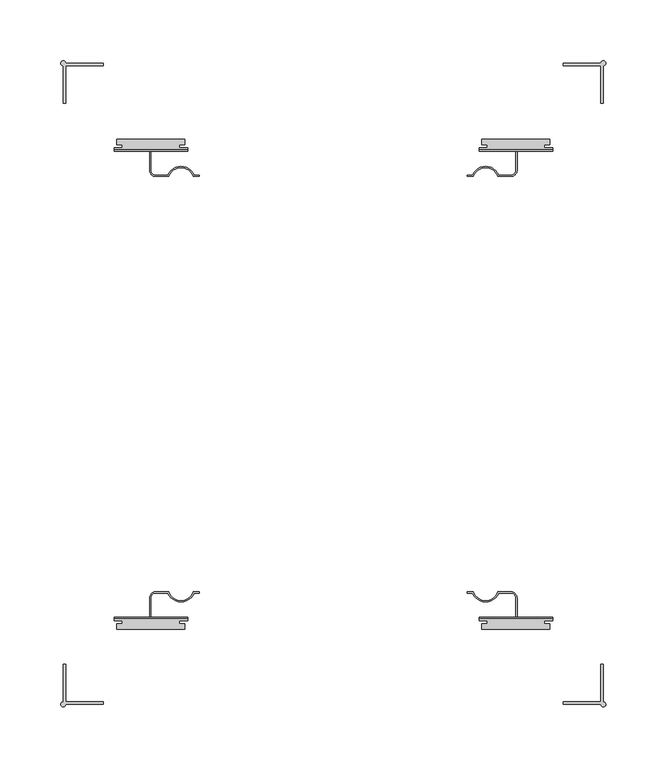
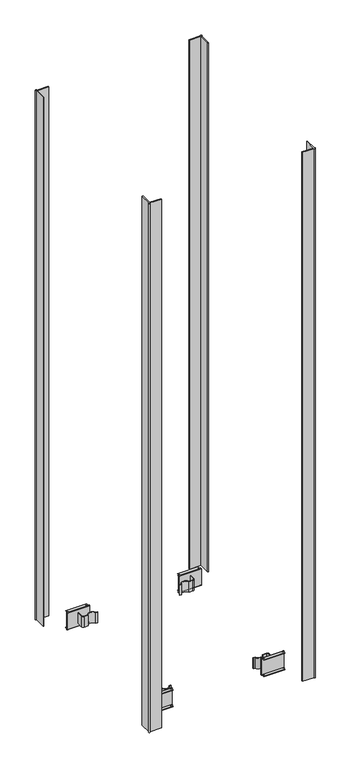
"""IFC4 building model written with IfcOpenShell, lengths in millimetres: column geometry, Облицовка колонн : КНАУФ-Файерборд два слоя."""

from ifc_helpers import new_model, si_unit, point, frame, frame_2d, origin, origin_with_axes, place, context, project, spatial, polyline, circle_curve, trimmed, segment, composite_curve, outline, extrude, source, transform, mapped, element, save
from ifc_brep_helpers import plane_surface, cylinder_surface, advanced_brep


def column_374d2ba1(model_context):
    return source(origin(), model_context, "Body", "SolidModel", [
        extrude(outline(composite_curve([segment(polyline([(189.0, -261.5), (220.0, -261.5), (220.0, -230.5), (221.9874508, -230.5), (221.9874508, -261.5436745)]), True, "CONTINUOUS"), segment(trimmed(circle_curve(frame_2d((221.9874508, -263.5311253)), 1.9874508), [point((221.9874508, -261.5436745))], [point((220.0, -263.5311253))], False, "CARTESIAN"), True, "CONTINUOUS"), segment(polyline([(220.0, -263.5311253), (189.0, -263.5311253), (189.0, -261.5)]), True, "CONTINUOUS")], self_intersect=False)), origin_with_axes(), (0.0, 0.0, 1.0), 1500.0),
        extrude(outline(composite_curve([segment(polyline([(-189.0, -261.5), (-189.0, -263.5311253), (-220.0, -263.5311253)]), True, "CONTINUOUS"), segment(trimmed(circle_curve(frame_2d((-221.9874508, -263.5311253)), 1.9874508), [point((-220.0, -263.5311253))], [point((-221.9874508, -261.5436745))], False, "CARTESIAN"), True, "CONTINUOUS"), segment(polyline([(-221.9874508, -261.5436745), (-221.9874508, -230.5), (-220.0, -230.5), (-220.0, -261.5), (-189.0, -261.5)]), True, "CONTINUOUS")], self_intersect=False)), origin_with_axes(), (0.0, 0.0, 1.0), 1500.0),
        extrude(outline(composite_curve([segment(polyline([(189.0, 261.5), (189.0, 263.5311253), (220.0, 263.5311253)]), True, "CONTINUOUS"), segment(trimmed(circle_curve(frame_2d((221.9874508, 263.5311253)), 1.9874508), [point((220.0, 263.5311253))], [point((221.9874508, 261.5436745))], False, "CARTESIAN"), True, "CONTINUOUS"), segment(polyline([(221.9874508, 261.5436745), (221.9874508, 230.5), (220.0, 230.5), (220.0, 261.5), (189.0, 261.5)]), True, "CONTINUOUS")], self_intersect=False)), origin_with_axes(), (0.0, 0.0, 1.0), 1500.0),
        extrude(outline(composite_curve([segment(polyline([(-189.0, 261.5), (-220.0, 261.5), (-220.0, 230.5), (-221.9874508, 230.5), (-221.9874508, 261.5436745)]), True, "CONTINUOUS"), segment(trimmed(circle_curve(frame_2d((-221.9874508, 263.5311253)), 1.9874508), [point((-221.9874508, 261.5436745))], [point((-220.0, 263.5311253))], False, "CARTESIAN"), True, "CONTINUOUS"), segment(polyline([(-220.0, 263.5311253), (-189.0, 263.5311253), (-189.0, 261.5)]), True, "CONTINUOUS")], self_intersect=False)), origin_with_axes(), (0.0, 0.0, 1.0), 1500.0),
        advanced_brep(
        [(-180.2, 191.5, 46.0), (-180.2, 192.5, 47.0), (-180.2, 194.5, 47.0), (-180.2, 194.5, 46.0), (-180.2, 192.5, 46.0), (-180.2, 192.5, 0.0), (-180.2, 194.5, 0.0), (-180.2, 194.5, -1.0), (-180.2, 192.5, -1.0), (-180.2, 191.5, 0.0), (-119.8, 191.5, 46.0), (-119.8, 191.5, 0.0), (-119.8, 192.5, -1.0), (-119.8, 194.5, -1.0), (-119.8, 194.5, 0.0), (-119.8, 192.5, 0.0), (-119.8, 192.5, 46.0), (-119.8, 194.5, 46.0), (-119.8, 194.5, 47.0), (-119.8, 192.5, 47.0), (-126.6838154, 194.5, 47.0), (-126.6838154, 196.8, 47.0), (-122.2, 196.8, 47.0), (-122.2, 201.5, 47.0), (-177.8, 201.5, 47.0), (-177.8, 196.8, 47.0), (-173.3161846, 196.8, 47.0), (-173.3161846, 194.5, 47.0), (-177.8, 201.5, 46.0), (-122.2, 201.5, 46.0), (-173.3161846, 194.5, 46.0), (-173.3161846, 196.8, 46.0), (-177.8, 196.8, 46.0), (-122.2, 196.8, 46.0), (-126.6838154, 196.8, 46.0), (-126.6838154, 194.5, 46.0), (-126.6838154, 194.5, 0.0), (-126.6838154, 196.8, 0.0), (-122.2, 196.8, 0.0), (-122.2, 201.5, 0.0), (-177.8, 201.5, 0.0), (-177.8, 196.8, 0.0), (-173.3161846, 196.8, 0.0), (-173.3161846, 194.5, 0.0), (-177.8, 201.5, -1.0), (-122.2, 201.5, -1.0), (-173.3161846, 194.5, -1.0), (-173.3161846, 196.8, -1.0), (-177.8, 196.8, -1.0), (-122.2, 196.8, -1.0), (-126.6838154, 196.8, -1.0), (-126.6838154, 194.5, -1.0)],
        [
            (0, 1, circle_curve(frame((-180.2, 192.5, 46.0), z_axis=(-1.0, 0.0, 0.0), x_axis=(0.0, -1.0, 0.0)), 1.0)),
            (1, 2),
            (2, 3),
            (3, 4),
            (4, 5),
            (5, 6),
            (6, 7),
            (7, 8),
            (8, 9, circle_curve(frame((-180.2, 192.5, 0.0), z_axis=(-1.0, 0.0, 0.0), x_axis=(0.0, -1.0, 0.0)), 1.0)),
            (9, 0),
            (10, 11),
            (11, 12, circle_curve(frame((-119.8, 192.5, 0.0), z_axis=(1.0, 0.0, 0.0), x_axis=(0.0, -1.0, 0.0)), 1.0)),
            (12, 13),
            (13, 14),
            (14, 15),
            (15, 16),
            (16, 17),
            (17, 18),
            (18, 19),
            (19, 10, circle_curve(frame((-119.8, 192.5, 46.0), z_axis=(1.0, 0.0, 0.0), x_axis=(0.0, -1.0, 0.0)), 1.0)),
            (0, 10),
            (19, 1),
            (18, 20),
            (20, 21),
            (21, 22),
            (22, 23),
            (23, 24),
            (24, 25),
            (25, 26),
            (26, 27),
            (27, 2),
            (28, 24),
            (23, 29),
            (29, 28),
            (16, 4),
            (3, 30),
            (30, 31),
            (31, 32),
            (32, 28),
            (29, 33),
            (33, 34),
            (34, 35),
            (35, 17),
            (15, 5),
            (14, 36),
            (36, 37),
            (37, 38),
            (38, 39),
            (39, 40),
            (40, 41),
            (41, 42),
            (42, 43),
            (43, 6),
            (44, 40),
            (39, 45),
            (45, 44),
            (12, 8),
            (7, 46),
            (46, 47),
            (47, 48),
            (48, 44),
            (45, 49),
            (49, 50),
            (50, 51),
            (51, 13),
            (11, 9),
            (30, 27),
            (26, 31),
            (46, 43),
            (42, 47),
            (25, 32),
            (41, 48),
            (34, 21),
            (20, 35),
            (50, 37),
            (36, 51),
            (33, 22),
            (49, 38),
        ],
        [
            plane_surface(frame((-180.2, 191.5, 46.0), z_axis=(-1.0, 0.0, 0.0), x_axis=(0.0, 0.0, 1.0))),
            plane_surface(frame((-119.8, 191.5, 46.0), z_axis=(1.0, 0.0, 0.0), x_axis=(0.0, 0.0, -1.0))),
            cylinder_surface(frame((-119.8, 192.5, 46.0), z_axis=(-1.0, 0.0, 0.0), x_axis=(0.0, -1.0, 0.0)), 1.0),
            plane_surface(frame((-180.2, 192.5, 47.0), z_axis=(0.0, 0.0, 1.0), x_axis=(1.0, 0.0, 0.0))),
            plane_surface(frame((-180.2, 201.5, 47.0), z_axis=(0.0, 1.0, 0.0), x_axis=(1.0, 0.0, 0.0))),
            plane_surface(frame((-180.2, 201.5, 46.0), z_axis=(0.0, 0.0, -1.0), x_axis=(1.0, 0.0, 0.0))),
            plane_surface(frame((-180.2, 192.5, 46.0), z_axis=(0.0, 1.0, 0.0), x_axis=(1.0, 0.0, 0.0))),
            plane_surface(frame((-180.2, 192.5, 0.0), z_axis=(0.0, 0.0, 1.0), x_axis=(1.0, 0.0, 0.0))),
            plane_surface(frame((-180.2, 201.5, 0.0), z_axis=(0.0, 1.0, 0.0), x_axis=(1.0, 0.0, 0.0))),
            plane_surface(frame((-180.2, 201.5, -1.0), z_axis=(0.0, 0.0, -1.0), x_axis=(1.0, 0.0, 0.0))),
            cylinder_surface(frame((-119.8, 192.5, 0.0), z_axis=(-1.0, 0.0, 0.0), x_axis=(0.0, -1.0, 0.0)), 1.0),
            plane_surface(frame((-180.2, 191.5, 0.0), z_axis=(0.0, -1.0, 0.0), x_axis=(1.0, 0.0, 0.0))),
            plane_surface(frame((-173.3161846, 194.5, 47.0), z_axis=(-1.0, 0.0, 0.0), x_axis=(0.0, 0.0, -1.0))),
            plane_surface(frame((-173.3161846, 196.8, 47.0), z_axis=(0.0, -1.0, 0.0), x_axis=(0.0, 0.0, -1.0))),
            plane_surface(frame((-177.8, 196.8, 47.0), z_axis=(-1.0, 0.0, 0.0), x_axis=(0.0, 0.0, -1.0))),
            plane_surface(frame((-180.2, 194.5, 47.0), z_axis=(0.0, 1.0, 0.0), x_axis=(0.0, 0.0, -1.0))),
            plane_surface(frame((-126.6838154, 196.8, 47.0), z_axis=(1.0, 0.0, 0.0), x_axis=(0.0, 0.0, -1.0))),
            plane_surface(frame((-122.2, 196.8, 47.0), z_axis=(0.0, -1.0, 0.0), x_axis=(0.0, 0.0, -1.0))),
            plane_surface(frame((-122.2, 201.5, 47.0), z_axis=(1.0, 0.0, 0.0), x_axis=(0.0, 0.0, -1.0))),
            plane_surface(frame((-126.6838154, 194.5, 47.0), z_axis=(0.0, 1.0, 0.0), x_axis=(0.0, 0.0, -1.0))),
        ],
        [
            (0, [[1, 2, 3, 4, 5, 6, 7, 8, 9, 10]]),
            (1, [[11, 12, 13, 14, 15, 16, 17, 18, 19, 20]]),
            (2, [[-1, 21, -20, 22]]),
            (3, [[-22, -19, 23, 24, 25, 26, 27, 28, 29, 30, 31, -2]]),
            (4, [[32, -27, 33, 34]]),
            (5, [[35, -4, 36, 37, 38, 39, -34, 40, 41, 42, 43, -17]]),
            (6, [[-5, -35, -16, 44]]),
            (7, [[-44, -15, 45, 46, 47, 48, 49, 50, 51, 52, 53, -6]]),
            (8, [[54, -49, 55, 56]]),
            (9, [[57, -8, 58, 59, 60, 61, -56, 62, 63, 64, 65, -13]]),
            (10, [[-9, -57, -12, 66]]),
            (11, [[-10, -66, -11, -21]]),
            (12, [[67, -30, 68, -37]]),
            (12, [[69, -52, 70, -59]]),
            (13, [[-68, -29, 71, -38]]),
            (13, [[-70, -51, 72, -60]]),
            (14, [[-71, -28, -32, -39]]),
            (14, [[-72, -50, -54, -61]]),
            (15, [[-67, -36, -3, -31]]),
            (15, [[-69, -58, -7, -53]]),
            (16, [[73, -24, 74, -42]]),
            (16, [[75, -46, 76, -64]]),
            (17, [[-73, -41, 77, -25]]),
            (17, [[-75, -63, 78, -47]]),
            (18, [[-77, -40, -33, -26]]),
            (18, [[-78, -62, -55, -48]]),
            (19, [[-74, -23, -18, -43]]),
            (19, [[-76, -45, -14, -65]]),
        ],
    ),
        extrude(outline(composite_curve([segment(trimmed(circle_curve(frame_2d((-125.2, 167.4974781)), 10.5025219), [point((-115.2, 170.7073015))], [point((-135.2, 170.7073015))], True, "CARTESIAN"), True, "CONTINUOUS"), segment(polyline([(-135.2, 170.7073015), (-146.0, 170.7073015)]), True, "CONTINUOUS"), segment(trimmed(circle_curve(frame_2d((-146.0, 175.7073015)), 5.0), [point((-146.0, 170.7073015))], [point((-151.0, 175.7073015))], False, "CARTESIAN"), True, "CONTINUOUS"), segment(polyline([(-151.0, 175.7073015), (-151.0, 191.5), (-150.0, 191.5), (-150.0, 175.7073015)]), True, "CONTINUOUS"), segment(trimmed(circle_curve(frame_2d((-146.0, 175.7073015)), 4.0), [point((-150.0, 175.7073015))], [point((-146.0, 171.7073015))], True, "CARTESIAN"), True, "CONTINUOUS"), segment(polyline([(-146.0, 171.7073015), (-135.9044569, 171.7073015)]), True, "CONTINUOUS"), segment(trimmed(circle_curve(frame_2d((-125.2, 167.4974781)), 11.5025219), [point((-135.9044569, 171.7073015))], [point((-114.4955431, 171.7073015))], False, "CARTESIAN"), True, "CONTINUOUS"), segment(polyline([(-114.4955431, 171.7073015), (-110.2, 171.7073015), (-110.2, 170.7073015), (-115.2, 170.7073015)]), True, "CONTINUOUS")], self_intersect=False)), frame((0.0, 0.0, 8.0), z_axis=(0.0, 0.0, 1.0), x_axis=(1.0, 0.0, 0.0)), (0.0, 0.0, 1.0), 30.0),
        advanced_brep(
        [(180.2, 191.5, 46.0), (180.2, 191.5, 0.0), (180.2, 192.5, -1.0), (180.2, 194.5, -1.0), (180.2, 194.5, 0.0), (180.2, 192.5, 0.0), (180.2, 192.5, 46.0), (180.2, 194.5, 46.0), (180.2, 194.5, 47.0), (180.2, 192.5, 47.0), (119.8, 191.5, 46.0), (119.8, 192.5, 47.0), (119.8, 194.5, 47.0), (119.8, 194.5, 46.0), (119.8, 192.5, 46.0), (119.8, 192.5, 0.0), (119.8, 194.5, 0.0), (119.8, 194.5, -1.0), (119.8, 192.5, -1.0), (119.8, 191.5, 0.0), (173.3161846, 194.5, 47.0), (173.3161846, 196.8, 47.0), (177.8, 196.8, 47.0), (177.8, 201.5, 47.0), (122.2, 201.5, 47.0), (122.2, 196.8, 47.0), (126.6838154, 196.8, 47.0), (126.6838154, 194.5, 47.0), (177.8, 201.5, 46.0), (122.2, 201.5, 46.0), (126.6838154, 194.5, 46.0), (126.6838154, 196.8, 46.0), (122.2, 196.8, 46.0), (177.8, 196.8, 46.0), (173.3161846, 196.8, 46.0), (173.3161846, 194.5, 46.0), (173.3161846, 194.5, 0.0), (173.3161846, 196.8, 0.0), (177.8, 196.8, 0.0), (177.8, 201.5, 0.0), (122.2, 201.5, 0.0), (122.2, 196.8, 0.0), (126.6838154, 196.8, 0.0), (126.6838154, 194.5, 0.0), (177.8, 201.5, -1.0), (122.2, 201.5, -1.0), (126.6838154, 194.5, -1.0), (126.6838154, 196.8, -1.0), (122.2, 196.8, -1.0), (177.8, 196.8, -1.0), (173.3161846, 196.8, -1.0), (173.3161846, 194.5, -1.0)],
        [
            (0, 1),
            (1, 2, circle_curve(frame((180.2, 192.5, 0.0), z_axis=(1.0, 0.0, 0.0), x_axis=(0.0, -1.0, 0.0)), 1.0)),
            (2, 3),
            (3, 4),
            (4, 5),
            (5, 6),
            (6, 7),
            (7, 8),
            (8, 9),
            (9, 0, circle_curve(frame((180.2, 192.5, 46.0), z_axis=(1.0, 0.0, 0.0), x_axis=(0.0, -1.0, 0.0)), 1.0)),
            (10, 11, circle_curve(frame((119.8, 192.5, 46.0), z_axis=(-1.0, 0.0, 0.0), x_axis=(0.0, -1.0, 0.0)), 1.0)),
            (11, 12),
            (12, 13),
            (13, 14),
            (14, 15),
            (15, 16),
            (16, 17),
            (17, 18),
            (18, 19, circle_curve(frame((119.8, 192.5, 0.0), z_axis=(-1.0, 0.0, 0.0), x_axis=(0.0, -1.0, 0.0)), 1.0)),
            (19, 10),
            (9, 11),
            (10, 0),
            (8, 20),
            (20, 21),
            (21, 22),
            (22, 23),
            (23, 24),
            (24, 25),
            (25, 26),
            (26, 27),
            (27, 12),
            (28, 29),
            (29, 24),
            (23, 28),
            (13, 30),
            (30, 31),
            (31, 32),
            (32, 29),
            (28, 33),
            (33, 34),
            (34, 35),
            (35, 7),
            (6, 14),
            (5, 15),
            (4, 36),
            (36, 37),
            (37, 38),
            (38, 39),
            (39, 40),
            (40, 41),
            (41, 42),
            (42, 43),
            (43, 16),
            (44, 45),
            (45, 40),
            (39, 44),
            (17, 46),
            (46, 47),
            (47, 48),
            (48, 45),
            (44, 49),
            (49, 50),
            (50, 51),
            (51, 3),
            (2, 18),
            (1, 19),
            (34, 21),
            (20, 35),
            (50, 37),
            (36, 51),
            (33, 22),
            (49, 38),
            (30, 27),
            (26, 31),
            (46, 43),
            (42, 47),
            (25, 32),
            (41, 48),
        ],
        [
            plane_surface(frame((180.2, 191.5, 46.0), z_axis=(1.0, 0.0, 0.0), x_axis=(0.0, 0.0, 1.0))),
            plane_surface(frame((119.8, 191.5, 46.0), z_axis=(-1.0, 0.0, 0.0), x_axis=(0.0, 0.0, -1.0))),
            cylinder_surface(frame((119.8, 192.5, 46.0), z_axis=(1.0, 0.0, 0.0), x_axis=(0.0, -1.0, 0.0)), 1.0),
            plane_surface(frame((180.2, 192.5, 47.0), z_axis=(0.0, 0.0, 1.0), x_axis=(-1.0, 0.0, 0.0))),
            plane_surface(frame((180.2, 201.5, 47.0), z_axis=(0.0, 1.0, 0.0), x_axis=(-1.0, 0.0, 0.0))),
            plane_surface(frame((180.2, 201.5, 46.0), z_axis=(0.0, 0.0, -1.0), x_axis=(-1.0, 0.0, 0.0))),
            plane_surface(frame((180.2, 192.5, 46.0), z_axis=(0.0, 1.0, 0.0), x_axis=(-1.0, 0.0, 0.0))),
            plane_surface(frame((180.2, 192.5, 0.0), z_axis=(0.0, 0.0, 1.0), x_axis=(-1.0, 0.0, 0.0))),
            plane_surface(frame((180.2, 201.5, 0.0), z_axis=(0.0, 1.0, 0.0), x_axis=(-1.0, 0.0, 0.0))),
            plane_surface(frame((180.2, 201.5, -1.0), z_axis=(0.0, 0.0, -1.0), x_axis=(-1.0, 0.0, 0.0))),
            cylinder_surface(frame((119.8, 192.5, 0.0), z_axis=(1.0, 0.0, 0.0), x_axis=(0.0, -1.0, 0.0)), 1.0),
            plane_surface(frame((180.2, 191.5, 0.0), z_axis=(0.0, -1.0, 0.0), x_axis=(-1.0, 0.0, 0.0))),
            plane_surface(frame((173.3161846, 194.5, 47.0), z_axis=(1.0, 0.0, 0.0), x_axis=(0.0, 0.0, -1.0))),
            plane_surface(frame((173.3161846, 196.8, 47.0), z_axis=(0.0, -1.0, 0.0), x_axis=(0.0, 0.0, -1.0))),
            plane_surface(frame((177.8, 196.8, 47.0), z_axis=(1.0, 0.0, 0.0), x_axis=(0.0, 0.0, -1.0))),
            plane_surface(frame((180.2, 194.5, 47.0), z_axis=(0.0, 1.0, 0.0), x_axis=(0.0, 0.0, -1.0))),
            plane_surface(frame((126.6838154, 196.8, 47.0), z_axis=(-1.0, 0.0, 0.0), x_axis=(0.0, 0.0, -1.0))),
            plane_surface(frame((122.2, 196.8, 47.0), z_axis=(0.0, -1.0, 0.0), x_axis=(0.0, 0.0, -1.0))),
            plane_surface(frame((122.2, 201.5, 47.0), z_axis=(-1.0, 0.0, 0.0), x_axis=(0.0, 0.0, -1.0))),
            plane_surface(frame((126.6838154, 194.5, 47.0), z_axis=(0.0, 1.0, 0.0), x_axis=(0.0, 0.0, -1.0))),
        ],
        [
            (0, [[1, 2, 3, 4, 5, 6, 7, 8, 9, 10]]),
            (1, [[11, 12, 13, 14, 15, 16, 17, 18, 19, 20]]),
            (2, [[21, -11, 22, -10]]),
            (3, [[-9, 23, 24, 25, 26, 27, 28, 29, 30, 31, -12, -21]]),
            (4, [[32, 33, -27, 34]]),
            (5, [[-14, 35, 36, 37, 38, -32, 39, 40, 41, 42, -7, 43]]),
            (6, [[44, -15, -43, -6]]),
            (7, [[-5, 45, 46, 47, 48, 49, 50, 51, 52, 53, -16, -44]]),
            (8, [[54, 55, -49, 56]]),
            (9, [[-18, 57, 58, 59, 60, -54, 61, 62, 63, 64, -3, 65]]),
            (10, [[66, -19, -65, -2]]),
            (11, [[-22, -20, -66, -1]]),
            (12, [[-41, 67, -24, 68]]),
            (12, [[-63, 69, -46, 70]]),
            (13, [[-40, 71, -25, -67]]),
            (13, [[-62, 72, -47, -69]]),
            (14, [[-39, -34, -26, -71]]),
            (14, [[-61, -56, -48, -72]]),
            (15, [[-23, -8, -42, -68]]),
            (15, [[-45, -4, -64, -70]]),
            (16, [[-36, 73, -30, 74]]),
            (16, [[-58, 75, -52, 76]]),
            (17, [[-29, 77, -37, -74]]),
            (17, [[-51, 78, -59, -76]]),
            (18, [[-28, -33, -38, -77]]),
            (18, [[-50, -55, -60, -78]]),
            (19, [[-35, -13, -31, -73]]),
            (19, [[-57, -17, -53, -75]]),
        ],
    ),
        extrude(outline(composite_curve([segment(polyline([(115.2, 170.7073015), (110.2, 170.7073015), (110.2, 171.7073015), (114.4955431, 171.7073015)]), True, "CONTINUOUS"), segment(trimmed(circle_curve(frame_2d((125.2, 167.4974781)), 11.5025219), [point((114.4955431, 171.7073015))], [point((135.9044569, 171.7073015))], False, "CARTESIAN"), True, "CONTINUOUS"), segment(polyline([(135.9044569, 171.7073015), (146.0, 171.7073015)]), True, "CONTINUOUS"), segment(trimmed(circle_curve(frame_2d((146.0, 175.7073015)), 4.0), [point((146.0, 171.7073015))], [point((150.0, 175.7073015))], True, "CARTESIAN"), True, "CONTINUOUS"), segment(polyline([(150.0, 175.7073015), (150.0, 191.5), (151.0, 191.5), (151.0, 175.7073015)]), True, "CONTINUOUS"), segment(trimmed(circle_curve(frame_2d((146.0, 175.7073015)), 5.0), [point((151.0, 175.7073015))], [point((146.0, 170.7073015))], False, "CARTESIAN"), True, "CONTINUOUS"), segment(polyline([(146.0, 170.7073015), (135.2, 170.7073015)]), True, "CONTINUOUS"), segment(trimmed(circle_curve(frame_2d((125.2, 167.4974781)), 10.5025219), [point((135.2, 170.7073015))], [point((115.2, 170.7073015))], True, "CARTESIAN"), True, "CONTINUOUS")], self_intersect=False)), frame((0.0, 0.0, 8.0), z_axis=(0.0, 0.0, 1.0), x_axis=(1.0, 0.0, 0.0)), (0.0, 0.0, 1.0), 30.0),
        advanced_brep(
        [(-180.2, -191.5, 46.0), (-180.2, -191.5, 0.0), (-180.2, -192.5, -1.0), (-180.2, -194.5, -1.0), (-180.2, -194.5, 0.0), (-180.2, -192.5, 0.0), (-180.2, -192.5, 46.0), (-180.2, -194.5, 46.0), (-180.2, -194.5, 47.0), (-180.2, -192.5, 47.0), (-119.8, -191.5, 46.0), (-119.8, -192.5, 47.0), (-119.8, -194.5, 47.0), (-119.8, -194.5, 46.0), (-119.8, -192.5, 46.0), (-119.8, -192.5, 0.0), (-119.8, -194.5, 0.0), (-119.8, -194.5, -1.0), (-119.8, -192.5, -1.0), (-119.8, -191.5, 0.0), (-173.3161846, -194.5, 47.0), (-173.3161846, -196.8, 47.0), (-177.8, -196.8, 47.0), (-177.8, -201.5, 47.0), (-122.2, -201.5, 47.0), (-122.2, -196.8, 47.0), (-126.6838154, -196.8, 47.0), (-126.6838154, -194.5, 47.0), (-177.8, -201.5, 46.0), (-122.2, -201.5, 46.0), (-126.6838154, -194.5, 46.0), (-126.6838154, -196.8, 46.0), (-122.2, -196.8, 46.0), (-177.8, -196.8, 46.0), (-173.3161846, -196.8, 46.0), (-173.3161846, -194.5, 46.0), (-173.3161846, -194.5, 0.0), (-173.3161846, -196.8, 0.0), (-177.8, -196.8, 0.0), (-177.8, -201.5, 0.0), (-122.2, -201.5, 0.0), (-122.2, -196.8, 0.0), (-126.6838154, -196.8, 0.0), (-126.6838154, -194.5, 0.0), (-177.8, -201.5, -1.0), (-122.2, -201.5, -1.0), (-126.6838154, -194.5, -1.0), (-126.6838154, -196.8, -1.0), (-122.2, -196.8, -1.0), (-177.8, -196.8, -1.0), (-173.3161846, -196.8, -1.0), (-173.3161846, -194.5, -1.0)],
        [
            (0, 1),
            (1, 2, circle_curve(frame((-180.2, -192.5, 0.0), z_axis=(-1.0, 0.0, 0.0), x_axis=(0.0, 1.0, 0.0)), 1.0)),
            (2, 3),
            (3, 4),
            (4, 5),
            (5, 6),
            (6, 7),
            (7, 8),
            (8, 9),
            (9, 0, circle_curve(frame((-180.2, -192.5, 46.0), z_axis=(-1.0, 0.0, 0.0), x_axis=(0.0, 1.0, 0.0)), 1.0)),
            (10, 11, circle_curve(frame((-119.8, -192.5, 46.0), z_axis=(1.0, 0.0, 0.0), x_axis=(0.0, 1.0, 0.0)), 1.0)),
            (11, 12),
            (12, 13),
            (13, 14),
            (14, 15),
            (15, 16),
            (16, 17),
            (17, 18),
            (18, 19, circle_curve(frame((-119.8, -192.5, 0.0), z_axis=(1.0, 0.0, 0.0), x_axis=(0.0, 1.0, 0.0)), 1.0)),
            (19, 10),
            (9, 11),
            (10, 0),
            (8, 20),
            (20, 21),
            (21, 22),
            (22, 23),
            (23, 24),
            (24, 25),
            (25, 26),
            (26, 27),
            (27, 12),
            (28, 29),
            (29, 24),
            (23, 28),
            (13, 30),
            (30, 31),
            (31, 32),
            (32, 29),
            (28, 33),
            (33, 34),
            (34, 35),
            (35, 7),
            (6, 14),
            (5, 15),
            (4, 36),
            (36, 37),
            (37, 38),
            (38, 39),
            (39, 40),
            (40, 41),
            (41, 42),
            (42, 43),
            (43, 16),
            (44, 45),
            (45, 40),
            (39, 44),
            (17, 46),
            (46, 47),
            (47, 48),
            (48, 45),
            (44, 49),
            (49, 50),
            (50, 51),
            (51, 3),
            (2, 18),
            (1, 19),
            (34, 21),
            (20, 35),
            (50, 37),
            (36, 51),
            (33, 22),
            (49, 38),
            (30, 27),
            (26, 31),
            (46, 43),
            (42, 47),
            (25, 32),
            (41, 48),
        ],
        [
            plane_surface(frame((-180.2, -191.5, 46.0), z_axis=(-1.0, 0.0, 0.0), x_axis=(0.0, 0.0, 1.0))),
            plane_surface(frame((-119.8, -191.5, 46.0), z_axis=(1.0, 0.0, 0.0), x_axis=(0.0, 0.0, -1.0))),
            cylinder_surface(frame((-119.8, -192.5, 46.0), z_axis=(-1.0, 0.0, 0.0), x_axis=(0.0, 1.0, 0.0)), 1.0),
            plane_surface(frame((-180.2, -192.5, 47.0), z_axis=(0.0, 0.0, 1.0), x_axis=(1.0, 0.0, 0.0))),
            plane_surface(frame((-180.2, -201.5, 47.0), z_axis=(0.0, -1.0, 0.0), x_axis=(1.0, 0.0, 0.0))),
            plane_surface(frame((-180.2, -201.5, 46.0), z_axis=(0.0, 0.0, -1.0), x_axis=(1.0, 0.0, 0.0))),
            plane_surface(frame((-180.2, -192.5, 46.0), z_axis=(0.0, -1.0, 0.0), x_axis=(1.0, 0.0, 0.0))),
            plane_surface(frame((-180.2, -192.5, 0.0), z_axis=(0.0, 0.0, 1.0), x_axis=(1.0, 0.0, 0.0))),
            plane_surface(frame((-180.2, -201.5, 0.0), z_axis=(0.0, -1.0, 0.0), x_axis=(1.0, 0.0, 0.0))),
            plane_surface(frame((-180.2, -201.5, -1.0), z_axis=(0.0, 0.0, -1.0), x_axis=(1.0, 0.0, 0.0))),
            cylinder_surface(frame((-119.8, -192.5, 0.0), z_axis=(-1.0, 0.0, 0.0), x_axis=(0.0, 1.0, 0.0)), 1.0),
            plane_surface(frame((-180.2, -191.5, 0.0), z_axis=(0.0, 1.0, 0.0), x_axis=(1.0, 0.0, 0.0))),
            plane_surface(frame((-173.3161846, -194.5, 47.0), z_axis=(-1.0, 0.0, 0.0), x_axis=(0.0, 0.0, -1.0))),
            plane_surface(frame((-173.3161846, -196.8, 47.0), z_axis=(0.0, 1.0, 0.0), x_axis=(0.0, 0.0, -1.0))),
            plane_surface(frame((-177.8, -196.8, 47.0), z_axis=(-1.0, 0.0, 0.0), x_axis=(0.0, 0.0, -1.0))),
            plane_surface(frame((-180.2, -194.5, 47.0), z_axis=(0.0, -1.0, 0.0), x_axis=(0.0, 0.0, -1.0))),
            plane_surface(frame((-126.6838154, -196.8, 47.0), z_axis=(1.0, 0.0, 0.0), x_axis=(0.0, 0.0, -1.0))),
            plane_surface(frame((-122.2, -196.8, 47.0), z_axis=(0.0, 1.0, 0.0), x_axis=(0.0, 0.0, -1.0))),
            plane_surface(frame((-122.2, -201.5, 47.0), z_axis=(1.0, 0.0, 0.0), x_axis=(0.0, 0.0, -1.0))),
            plane_surface(frame((-126.6838154, -194.5, 47.0), z_axis=(0.0, -1.0, 0.0), x_axis=(0.0, 0.0, -1.0))),
        ],
        [
            (0, [[1, 2, 3, 4, 5, 6, 7, 8, 9, 10]]),
            (1, [[11, 12, 13, 14, 15, 16, 17, 18, 19, 20]]),
            (2, [[21, -11, 22, -10]]),
            (3, [[-9, 23, 24, 25, 26, 27, 28, 29, 30, 31, -12, -21]]),
            (4, [[32, 33, -27, 34]]),
            (5, [[-14, 35, 36, 37, 38, -32, 39, 40, 41, 42, -7, 43]]),
            (6, [[44, -15, -43, -6]]),
            (7, [[-5, 45, 46, 47, 48, 49, 50, 51, 52, 53, -16, -44]]),
            (8, [[54, 55, -49, 56]]),
            (9, [[-18, 57, 58, 59, 60, -54, 61, 62, 63, 64, -3, 65]]),
            (10, [[66, -19, -65, -2]]),
            (11, [[-22, -20, -66, -1]]),
            (12, [[-41, 67, -24, 68]]),
            (12, [[-63, 69, -46, 70]]),
            (13, [[-40, 71, -25, -67]]),
            (13, [[-62, 72, -47, -69]]),
            (14, [[-39, -34, -26, -71]]),
            (14, [[-61, -56, -48, -72]]),
            (15, [[-23, -8, -42, -68]]),
            (15, [[-45, -4, -64, -70]]),
            (16, [[-36, 73, -30, 74]]),
            (16, [[-58, 75, -52, 76]]),
            (17, [[-29, 77, -37, -74]]),
            (17, [[-51, 78, -59, -76]]),
            (18, [[-28, -33, -38, -77]]),
            (18, [[-50, -55, -60, -78]]),
            (19, [[-35, -13, -31, -73]]),
            (19, [[-57, -17, -53, -75]]),
        ],
    ),
        extrude(outline(composite_curve([segment(polyline([(-115.2, -170.7073015), (-110.2, -170.7073015), (-110.2, -171.7073015), (-114.4955431, -171.7073015)]), True, "CONTINUOUS"), segment(trimmed(circle_curve(frame_2d((-125.2, -167.4974781)), 11.5025219), [point((-114.4955431, -171.7073015))], [point((-135.9044569, -171.7073015))], False, "CARTESIAN"), True, "CONTINUOUS"), segment(polyline([(-135.9044569, -171.7073015), (-146.0, -171.7073015)]), True, "CONTINUOUS"), segment(trimmed(circle_curve(frame_2d((-146.0, -175.7073015)), 4.0), [point((-146.0, -171.7073015))], [point((-150.0, -175.7073015))], True, "CARTESIAN"), True, "CONTINUOUS"), segment(polyline([(-150.0, -175.7073015), (-150.0, -191.5), (-151.0, -191.5), (-151.0, -175.7073015)]), True, "CONTINUOUS"), segment(trimmed(circle_curve(frame_2d((-146.0, -175.7073015)), 5.0), [point((-151.0, -175.7073015))], [point((-146.0, -170.7073015))], False, "CARTESIAN"), True, "CONTINUOUS"), segment(polyline([(-146.0, -170.7073015), (-135.2, -170.7073015)]), True, "CONTINUOUS"), segment(trimmed(circle_curve(frame_2d((-125.2, -167.4974781)), 10.5025219), [point((-135.2, -170.7073015))], [point((-115.2, -170.7073015))], True, "CARTESIAN"), True, "CONTINUOUS")], self_intersect=False)), frame((0.0, 0.0, 8.0), z_axis=(0.0, 0.0, 1.0), x_axis=(1.0, 0.0, 0.0)), (0.0, 0.0, 1.0), 30.0),
        advanced_brep(
        [(180.2, -191.5, 46.0), (180.2, -192.5, 47.0), (180.2, -194.5, 47.0), (180.2, -194.5, 46.0), (180.2, -192.5, 46.0), (180.2, -192.5, 0.0), (180.2, -194.5, 0.0), (180.2, -194.5, -1.0), (180.2, -192.5, -1.0), (180.2, -191.5, 0.0), (119.8, -191.5, 46.0), (119.8, -191.5, 0.0), (119.8, -192.5, -1.0), (119.8, -194.5, -1.0), (119.8, -194.5, 0.0), (119.8, -192.5, 0.0), (119.8, -192.5, 46.0), (119.8, -194.5, 46.0), (119.8, -194.5, 47.0), (119.8, -192.5, 47.0), (126.6838154, -194.5, 47.0), (126.6838154, -196.8, 47.0), (122.2, -196.8, 47.0), (122.2, -201.5, 47.0), (177.8, -201.5, 47.0), (177.8, -196.8, 47.0), (173.3161846, -196.8, 47.0), (173.3161846, -194.5, 47.0), (177.8, -201.5, 46.0), (122.2, -201.5, 46.0), (173.3161846, -194.5, 46.0), (173.3161846, -196.8, 46.0), (177.8, -196.8, 46.0), (122.2, -196.8, 46.0), (126.6838154, -196.8, 46.0), (126.6838154, -194.5, 46.0), (126.6838154, -194.5, 0.0), (126.6838154, -196.8, 0.0), (122.2, -196.8, 0.0), (122.2, -201.5, 0.0), (177.8, -201.5, 0.0), (177.8, -196.8, 0.0), (173.3161846, -196.8, 0.0), (173.3161846, -194.5, 0.0), (177.8, -201.5, -1.0), (122.2, -201.5, -1.0), (173.3161846, -194.5, -1.0), (173.3161846, -196.8, -1.0), (177.8, -196.8, -1.0), (122.2, -196.8, -1.0), (126.6838154, -196.8, -1.0), (126.6838154, -194.5, -1.0)],
        [
            (0, 1, circle_curve(frame((180.2, -192.5, 46.0), z_axis=(1.0, 0.0, 0.0), x_axis=(0.0, 1.0, 0.0)), 1.0)),
            (1, 2),
            (2, 3),
            (3, 4),
            (4, 5),
            (5, 6),
            (6, 7),
            (7, 8),
            (8, 9, circle_curve(frame((180.2, -192.5, 0.0), z_axis=(1.0, 0.0, 0.0), x_axis=(0.0, 1.0, 0.0)), 1.0)),
            (9, 0),
            (10, 11),
            (11, 12, circle_curve(frame((119.8, -192.5, 0.0), z_axis=(-1.0, 0.0, 0.0), x_axis=(0.0, 1.0, 0.0)), 1.0)),
            (12, 13),
            (13, 14),
            (14, 15),
            (15, 16),
            (16, 17),
            (17, 18),
            (18, 19),
            (19, 10, circle_curve(frame((119.8, -192.5, 46.0), z_axis=(-1.0, 0.0, 0.0), x_axis=(0.0, 1.0, 0.0)), 1.0)),
            (0, 10),
            (19, 1),
            (18, 20),
            (20, 21),
            (21, 22),
            (22, 23),
            (23, 24),
            (24, 25),
            (25, 26),
            (26, 27),
            (27, 2),
            (28, 24),
            (23, 29),
            (29, 28),
            (16, 4),
            (3, 30),
            (30, 31),
            (31, 32),
            (32, 28),
            (29, 33),
            (33, 34),
            (34, 35),
            (35, 17),
            (15, 5),
            (14, 36),
            (36, 37),
            (37, 38),
            (38, 39),
            (39, 40),
            (40, 41),
            (41, 42),
            (42, 43),
            (43, 6),
            (44, 40),
            (39, 45),
            (45, 44),
            (12, 8),
            (7, 46),
            (46, 47),
            (47, 48),
            (48, 44),
            (45, 49),
            (49, 50),
            (50, 51),
            (51, 13),
            (11, 9),
            (30, 27),
            (26, 31),
            (46, 43),
            (42, 47),
            (25, 32),
            (41, 48),
            (34, 21),
            (20, 35),
            (50, 37),
            (36, 51),
            (33, 22),
            (49, 38),
        ],
        [
            plane_surface(frame((180.2, -191.5, 46.0), z_axis=(1.0, 0.0, 0.0), x_axis=(0.0, 0.0, 1.0))),
            plane_surface(frame((119.8, -191.5, 46.0), z_axis=(-1.0, 0.0, 0.0), x_axis=(0.0, 0.0, -1.0))),
            cylinder_surface(frame((119.8, -192.5, 46.0), z_axis=(1.0, 0.0, 0.0), x_axis=(0.0, 1.0, 0.0)), 1.0),
            plane_surface(frame((180.2, -192.5, 47.0), z_axis=(0.0, 0.0, 1.0), x_axis=(-1.0, 0.0, 0.0))),
            plane_surface(frame((180.2, -201.5, 47.0), z_axis=(0.0, -1.0, 0.0), x_axis=(-1.0, 0.0, 0.0))),
            plane_surface(frame((180.2, -201.5, 46.0), z_axis=(0.0, 0.0, -1.0), x_axis=(-1.0, 0.0, 0.0))),
            plane_surface(frame((180.2, -192.5, 46.0), z_axis=(0.0, -1.0, 0.0), x_axis=(-1.0, 0.0, 0.0))),
            plane_surface(frame((180.2, -192.5, 0.0), z_axis=(0.0, 0.0, 1.0), x_axis=(-1.0, 0.0, 0.0))),
            plane_surface(frame((180.2, -201.5, 0.0), z_axis=(0.0, -1.0, 0.0), x_axis=(-1.0, 0.0, 0.0))),
            plane_surface(frame((180.2, -201.5, -1.0), z_axis=(0.0, 0.0, -1.0), x_axis=(-1.0, 0.0, 0.0))),
            cylinder_surface(frame((119.8, -192.5, 0.0), z_axis=(1.0, 0.0, 0.0), x_axis=(0.0, 1.0, 0.0)), 1.0),
            plane_surface(frame((180.2, -191.5, 0.0), z_axis=(0.0, 1.0, 0.0), x_axis=(-1.0, 0.0, 0.0))),
            plane_surface(frame((173.3161846, -194.5, 47.0), z_axis=(1.0, 0.0, 0.0), x_axis=(0.0, 0.0, -1.0))),
            plane_surface(frame((173.3161846, -196.8, 47.0), z_axis=(0.0, 1.0, 0.0), x_axis=(0.0, 0.0, -1.0))),
            plane_surface(frame((177.8, -196.8, 47.0), z_axis=(1.0, 0.0, 0.0), x_axis=(0.0, 0.0, -1.0))),
            plane_surface(frame((180.2, -194.5, 47.0), z_axis=(0.0, -1.0, 0.0), x_axis=(0.0, 0.0, -1.0))),
            plane_surface(frame((126.6838154, -196.8, 47.0), z_axis=(-1.0, 0.0, 0.0), x_axis=(0.0, 0.0, -1.0))),
            plane_surface(frame((122.2, -196.8, 47.0), z_axis=(0.0, 1.0, 0.0), x_axis=(0.0, 0.0, -1.0))),
            plane_surface(frame((122.2, -201.5, 47.0), z_axis=(-1.0, 0.0, 0.0), x_axis=(0.0, 0.0, -1.0))),
            plane_surface(frame((126.6838154, -194.5, 47.0), z_axis=(0.0, -1.0, 0.0), x_axis=(0.0, 0.0, -1.0))),
        ],
        [
            (0, [[1, 2, 3, 4, 5, 6, 7, 8, 9, 10]]),
            (1, [[11, 12, 13, 14, 15, 16, 17, 18, 19, 20]]),
            (2, [[-1, 21, -20, 22]]),
            (3, [[-22, -19, 23, 24, 25, 26, 27, 28, 29, 30, 31, -2]]),
            (4, [[32, -27, 33, 34]]),
            (5, [[35, -4, 36, 37, 38, 39, -34, 40, 41, 42, 43, -17]]),
            (6, [[-5, -35, -16, 44]]),
            (7, [[-44, -15, 45, 46, 47, 48, 49, 50, 51, 52, 53, -6]]),
            (8, [[54, -49, 55, 56]]),
            (9, [[57, -8, 58, 59, 60, 61, -56, 62, 63, 64, 65, -13]]),
            (10, [[-9, -57, -12, 66]]),
            (11, [[-10, -66, -11, -21]]),
            (12, [[67, -30, 68, -37]]),
            (12, [[69, -52, 70, -59]]),
            (13, [[-68, -29, 71, -38]]),
            (13, [[-70, -51, 72, -60]]),
            (14, [[-71, -28, -32, -39]]),
            (14, [[-72, -50, -54, -61]]),
            (15, [[-67, -36, -3, -31]]),
            (15, [[-69, -58, -7, -53]]),
            (16, [[73, -24, 74, -42]]),
            (16, [[75, -46, 76, -64]]),
            (17, [[-73, -41, 77, -25]]),
            (17, [[-75, -63, 78, -47]]),
            (18, [[-77, -40, -33, -26]]),
            (18, [[-78, -62, -55, -48]]),
            (19, [[-74, -23, -18, -43]]),
            (19, [[-76, -45, -14, -65]]),
        ],
    ),
        extrude(outline(composite_curve([segment(trimmed(circle_curve(frame_2d((125.2, -167.4974781)), 10.5025219), [point((115.2, -170.7073015))], [point((135.2, -170.7073015))], True, "CARTESIAN"), True, "CONTINUOUS"), segment(polyline([(135.2, -170.7073015), (146.0, -170.7073015)]), True, "CONTINUOUS"), segment(trimmed(circle_curve(frame_2d((146.0, -175.7073015)), 5.0), [point((146.0, -170.7073015))], [point((151.0, -175.7073015))], False, "CARTESIAN"), True, "CONTINUOUS"), segment(polyline([(151.0, -175.7073015), (151.0, -191.5), (150.0, -191.5), (150.0, -175.7073015)]), True, "CONTINUOUS"), segment(trimmed(circle_curve(frame_2d((146.0, -175.7073015)), 4.0), [point((150.0, -175.7073015))], [point((146.0, -171.7073015))], True, "CARTESIAN"), True, "CONTINUOUS"), segment(polyline([(146.0, -171.7073015), (135.9044569, -171.7073015)]), True, "CONTINUOUS"), segment(trimmed(circle_curve(frame_2d((125.2, -167.4974781)), 11.5025219), [point((135.9044569, -171.7073015))], [point((114.4955431, -171.7073015))], False, "CARTESIAN"), True, "CONTINUOUS"), segment(polyline([(114.4955431, -171.7073015), (110.2, -171.7073015), (110.2, -170.7073015), (115.2, -170.7073015)]), True, "CONTINUOUS")], self_intersect=False)), frame((0.0, 0.0, 8.0), z_axis=(0.0, 0.0, 1.0), x_axis=(1.0, 0.0, 0.0)), (0.0, 0.0, 1.0), 30.0),
    ])


if __name__ == "__main__":
    model = new_model("IFC4")
    model_context = context("Model", 3, world=origin())
    ifc_project = project(units=[si_unit("LENGTHUNIT", "METRE", prefix="MILLI")], contexts=[model_context])
    site = spatial("IfcSite", under=ifc_project)
    building = spatial("IfcBuilding", under=site)
    placement = place(None, origin())
    column_shape = column_374d2ba1(model_context)
    element("IfcColumn", 1, ObjectType="Облицовка колонн : КНАУФ-Файерборд два слоя", at=placement, inside=building, context=model_context, shape_type="MappedRepresentation", body=[
        mapped(column_shape, transform((0.0, 0.0, 0.0), x_axis=(1.0, 0.0, 0.0), y_axis=(0.0, 1.0, 0.0), z_axis=(0.0, 0.0, 1.0))),
    ])
    save(model, "model.ifc")
